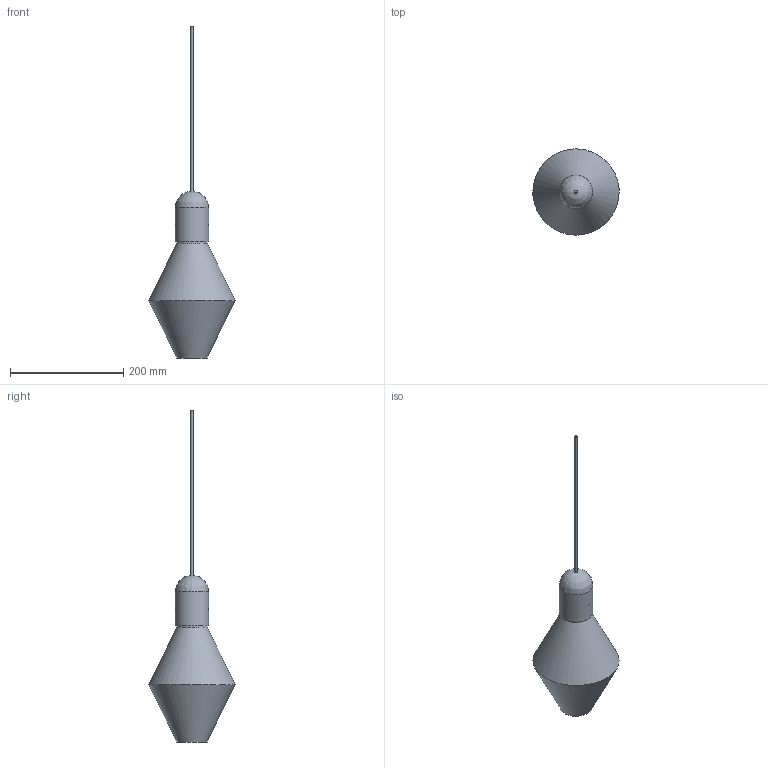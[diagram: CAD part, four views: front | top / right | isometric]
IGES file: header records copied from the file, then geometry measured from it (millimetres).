
Global section: file name: Niche - Marquise - Placebo Pendant; native system: unknown; preprocessor: unknown; author: unknown; organization: unknown; date: 20250109.104221; units: inch
Bounding box: 152.4 x 152.22 x 586.74 mm (x, y, z)
Volume: 213455.7 mm3; surface area: 202874.6 mm2
Topology: 5 solids, 5 shells, 102 faces, 273 edges, 182 vertices
Faces by surface type: bspline 102
